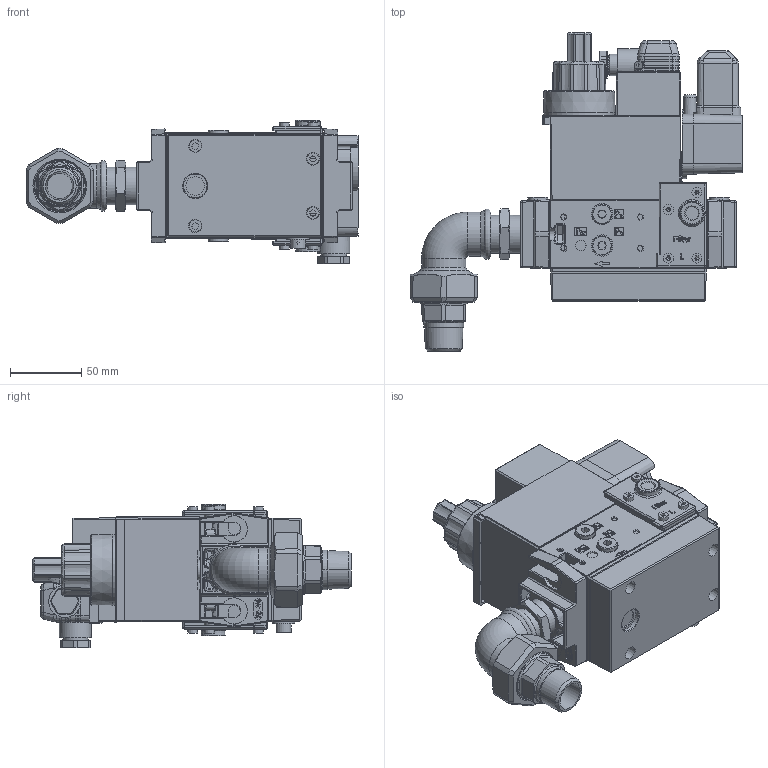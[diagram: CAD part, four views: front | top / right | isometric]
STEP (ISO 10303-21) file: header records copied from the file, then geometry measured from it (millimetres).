
FILE_DESCRIPTION (( 'STEP AP214' ), '1' );
FILE_NAME ('19990002-RAMPA MM405A20C R3-4 B.STEP', '2024-02-14T11:35:44', ( '' ), ( '' ), 'SwSTEP 2.0', 'SolidWorks 2021', '' );
FILE_SCHEMA (( 'AUTOMOTIVE_DESIGN' ));
Length unit declared in the file: millimetre
Products named in the file (1): 19990002-RAMPA MM405A20C R3-4 B
Bounding box: 232.69 x 223.2 x 100.5 mm (x, y, z)
Volume: 1482024.4 mm3; surface area: 191837.3 mm2
Topology: 49 solids, 49 shells, 3948 faces, 9907 edges, 6240 vertices
Faces by surface type: plane 1831, bspline 933, cylinder 812, cone 266, torus 82, sphere 24
Full cylindrical faces by diameter (mm): 0.7 x2, 1.5 x2, 1.95 x1, 2 x14, 2.45 x1, 2.459 x1, 2.5 x1, 2.6 x1, 2.9 x2, 3 x1, 3.55 x12, 4 x17, 4.5 x2, 5 x2, 7 x10, 8 x2, 9 x2, 10 x2, 10.6 x2, 13 x1, 13.1 x1, 14 x6, 15 x11, 15.2 x1, 15.8 x1, 18 x1, 20 x1, 22.5 x2, 24.117 x1, 26 x1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
Entity records: 207465 total; most frequent: CARTESIAN_POINT 80092, ORIENTED_EDGE 18986, DIRECTION 13527, EDGE_CURVE 9493, VERTEX_POINT 6115, LINE 5087, VECTOR 5087, EDGE_LOOP 4488
